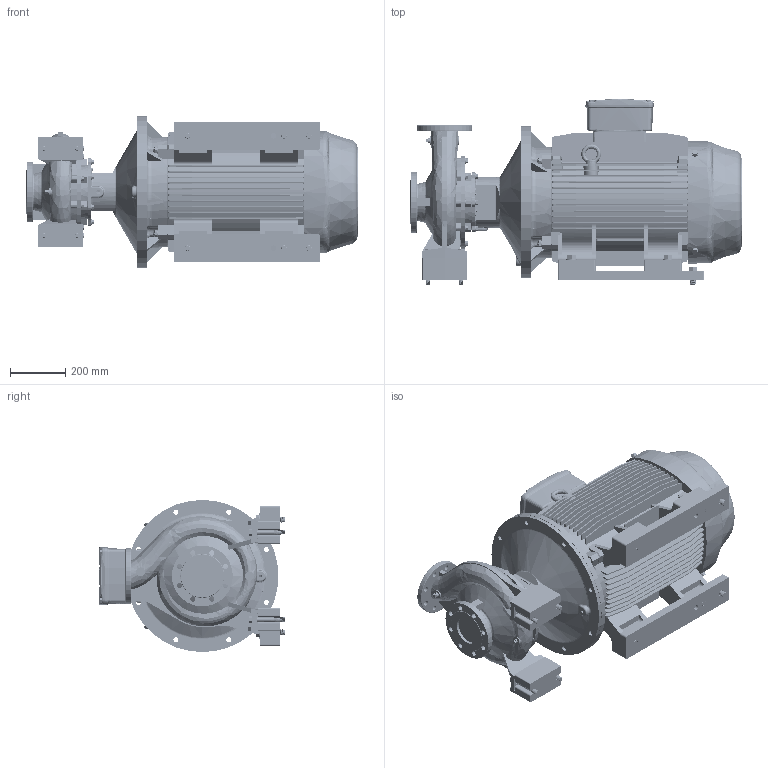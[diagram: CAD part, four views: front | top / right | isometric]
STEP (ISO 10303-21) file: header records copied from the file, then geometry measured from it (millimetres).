
FILE_DESCRIPTION (( 'STEP AP214' ), '1' );
FILE_NAME ('GSD2 80-250_55 & 75_(250SM)_W21.STEP', '2026-07-08T03:02:16', ( '' ), ( '' ), 'SwSTEP 2.0', 'SolidWorks 2024', '' );
FILE_SCHEMA (( 'AUTOMOTIVE_DESIGN' ));
Length unit declared in the file: millimetre
Products named in the file (13): Parametric bolt_SFT-A387B; Parametric bolt and washer_SFT-A387B; Parametric Flat Washer_M16; CGS11-5321_2_3_4_5_CGS11-5324; 250S_M2P IE3_W21T_B35; Parametric bolt_SFT-A417B; Parametric bolt and washer_SFT-A417B; 80-250-250S_M_ﾃﾞﾌｫﾙﾄ; A407B Bolt_407; CGS11-5321_2_3_4_5_CGS11-5322; 100x30 - CGSDA-5291; GSD2  80-250_55 & 75_(250SM)_W21; Parametric Flat Washer_M20
Assembly tree (26 placements, depth 3):
  GSD2  80-250_55 & 75_(250SM)_W21
    80-250-250S_M_ﾃﾞﾌｫﾙﾄ
    250S_M2P IE3_W21T_B35
    CGS11-5321_2_3_4_5_CGS11-5324  x2
    CGS11-5321_2_3_4_5_CGS11-5322  x4
    100x30 - CGSDA-5291  x2
    Parametric bolt and washer_SFT-A387B  x4
      Parametric bolt_SFT-A387B
      Parametric Flat Washer_M16
    A407B Bolt_407  x2
    Parametric Flat Washer_M20  x2
    Parametric bolt and washer_SFT-A417B  x4
      Parametric bolt_SFT-A417B
      Parametric Flat Washer_M20
Bounding box: 1200.5 x 671 x 550 mm (x, y, z)
Volume: 143957300.8 mm3; surface area: 5699935.9 mm2
Topology: 38 solids, 43 shells, 4384 faces, 11611 edges, 7427 vertices
Faces by surface type: plane 1745, cylinder 1547, cone 474, torus 319, bspline 283, sphere 16
Entity records: 170218 total; most frequent: CARTESIAN_POINT 81338, ORIENTED_EDGE 19542, DIRECTION 17563, EDGE_CURVE 9771, AXIS2_PLACEMENT_3D 6442, VERTEX_POINT 6228, LINE 4679, VECTOR 4679
